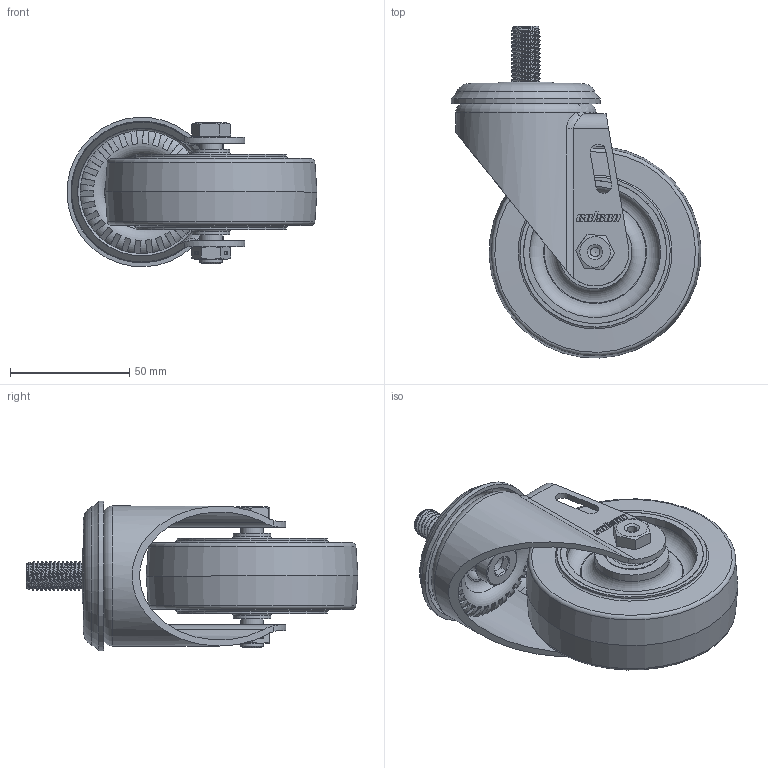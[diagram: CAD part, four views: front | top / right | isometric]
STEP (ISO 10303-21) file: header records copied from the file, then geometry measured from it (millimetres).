
FILE_DESCRIPTION((''),'2;1');
FILE_NAME('C:\Documents and Settings\Administrator\My Documents\Andys Backup Data\ANDY''S INVENTOR\INVENTOR LIBRARIES\MINITEC INVENTOR LIBRARIES\FEET WHEELS FLOOR FASTENING SUPPORTS\21.9400 CASTER 3.5.stp','2010-11-05T07:54:03',('Administrator'),(''),'Autodesk Inventor 2009','Autodesk Inventor 2009','');
FILE_SCHEMA(('AUTOMOTIVE_DESIGN { 1 0 10303 214 1 1 1 1 }'));
Length unit declared in the file: inch
Products named in the file (12): 21.9400 CASTER 3.5; 21.9401 WHEEL FORK; 21.9401 LOWER RACEWAY; 21.9403 wheel assy; 21.9403 ball bearing; 21.9401 wheel core; 21.9401 wheel tread; 21.9400 Axle Bolt; 21.9401 WHEEL NUT; 21.9401 UPPER RACEWAY; 21.9402 MODULAR STEM; 21.9627 M12X40
Assembly tree (11 placements, depth 3):
  21.9400 CASTER 3.5
    21.9401 WHEEL FORK
    21.9401 LOWER RACEWAY
    21.9403 wheel assy
      21.9403 ball bearing
      21.9401 wheel core
      21.9401 wheel tread
    21.9400 Axle Bolt
    21.9401 WHEEL NUT
    21.9401 UPPER RACEWAY
    21.9402 MODULAR STEM
    21.9627 M12X40
Bounding box: 104.97 x 139.41 x 62.74 mm (x, y, z)
Volume: 206993.4 mm3; surface area: 83139 mm2
Topology: 10 solids, 10 shells, 512 faces, 1305 edges, 840 vertices
Faces by surface type: plane 244, cylinder 133, cone 93, torus 32, bspline 10
Full cylindrical faces by diameter (mm): 2.286 x1, 4.064 x1, 8.871 x1, 9.525 x1, 10.52 x22, 12 x21, 12.192 x1, 13.081 x1, 15.494 x1, 15.875 x3, 18 x1, 19.279 x1, 22.606 x2, 22.86 x1, 22.911 x1, 25.4 x1, 31.039 x2, 32.563 x1, 51.562 x1, 54.915 x2, 59.995 x1, 60.046 x1, 62.8 x1, 63.094 x2
Entity records: 20210 total; most frequent: CARTESIAN_POINT 8561, DIRECTION 2266, ORIENTED_EDGE 2182, EDGE_CURVE 1091, AXIS2_PLACEMENT_3D 902, VERTEX_POINT 806, EDGE_LOOP 743, FACE_OUTER_BOUND 512
